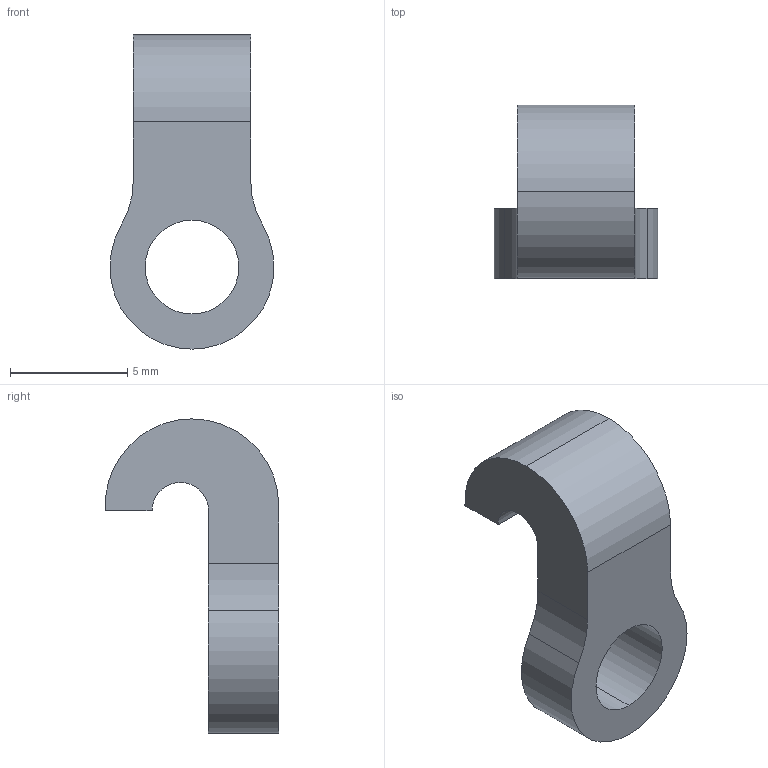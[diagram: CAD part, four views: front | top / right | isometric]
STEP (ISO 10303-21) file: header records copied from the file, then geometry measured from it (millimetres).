
FILE_DESCRIPTION (( 'STEP AP203' ), '1' );
FILE_NAME ('rubberband hooks.STEP', '2018-02-21T17:36:29', ( '' ), ( '' ), 'SwSTEP 2.0', 'SolidWorks 2015', '' );
FILE_SCHEMA (( 'CONFIG_CONTROL_DESIGN' ));
Length unit declared in the file: inch
Products named in the file (1): rubberband hooks
Bounding box: 7 x 7.41 x 13.41 mm (x, y, z)
Volume: 225.1 mm3; surface area: 319.2 mm2
Topology: 1 solids, 1 shells, 15 faces, 39 edges, 26 vertices
Faces by surface type: cylinder 10, plane 5
Entity records: 556 total; most frequent: DIRECTION 91, CARTESIAN_POINT 81, ORIENTED_EDGE 78, EDGE_CURVE 39, AXIS2_PLACEMENT_3D 36, VERTEX_POINT 26, CIRCLE 20, LINE 19
